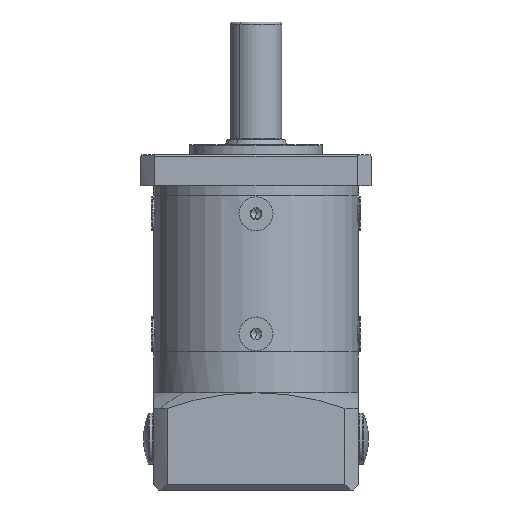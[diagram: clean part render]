
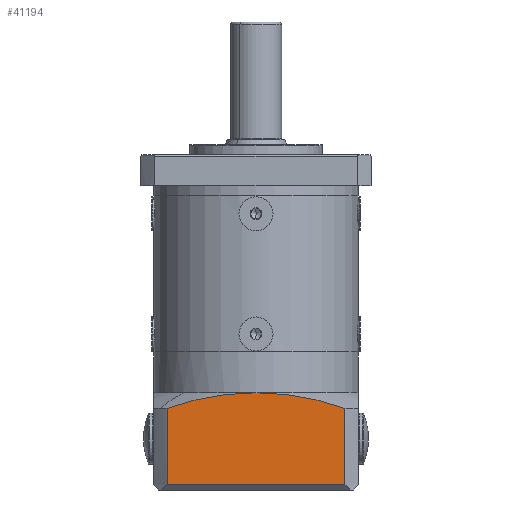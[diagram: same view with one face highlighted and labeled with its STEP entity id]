
A CAD part, front view. The second image highlights one B-rep face of the part: STEP entity #41194.
In plain terms, the highlighted planar face has unit normal (0, -1, 0).
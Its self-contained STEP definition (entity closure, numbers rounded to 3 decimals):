
#452 = CARTESIAN_POINT ( 'NONE',  ( -4.81, -6.138, -51.485 ) ) ;
#1282 = AXIS2_PLACEMENT_3D ( 'NONE', #17273, #35163, #16625 ) ;
#2647 = CARTESIAN_POINT ( 'NONE',  ( 12.575, -6.138, -94.953 ) ) ;
#5045 = DIRECTION ( 'NONE',  ( 0., 0., -1. ) ) ;
#5098 = CARTESIAN_POINT ( 'NONE',  ( 15.19, -6.138, -18.25 ) ) ;
#8926 = VERTEX_POINT ( 'NONE', #43164 ) ;
#9084 = VERTEX_POINT ( 'NONE', #34532 ) ;
#9883 = CIRCLE ( 'NONE', #12175, 51.235 ) ;
#10973 = ORIENTED_EDGE ( 'NONE', *, *, #25828, .T. ) ;
#12175 = AXIS2_PLACEMENT_3D ( 'NONE', #13359, #24597, #28981 ) ;
#13359 = CARTESIAN_POINT ( 'NONE',  ( -4.81, -6.138, -51.485 ) ) ;
#13503 = PLANE ( 'NONE',  #1282 ) ;
#14371 = EDGE_CURVE ( 'NONE', #25537, #15085, #16681, .T. ) ;
#15085 = VERTEX_POINT ( 'NONE', #31609 ) ;
#16105 = CIRCLE ( 'NONE', #42375, 51.235 ) ;
#16313 = DIRECTION ( 'NONE',  ( 1., 0., 0. ) ) ;
#16323 = FACE_OUTER_BOUND ( 'NONE', #36689, .T. ) ;
#16625 = DIRECTION ( 'NONE',  ( 0., 0., -1. ) ) ;
#16681 = LINE ( 'NONE', #43063, #41639 ) ;
#17273 = CARTESIAN_POINT ( 'NONE',  ( 15.19, -6.138, -19.25 ) ) ;
#17802 = LINE ( 'NONE', #2647, #20122 ) ;
#20122 = VECTOR ( 'NONE', #5045, 1000. ) ;
#22403 = EDGE_CURVE ( 'NONE', #31642, #9084, #16105, .T. ) ;
#24597 = DIRECTION ( 'NONE',  ( 0., -1., 0. ) ) ;
#25537 = VERTEX_POINT ( 'NONE', #43302 ) ;
#25828 = EDGE_CURVE ( 'NONE', #25537, #8926, #47347, .T. ) ;
#26298 = DIRECTION ( 'NONE',  ( 0., -1., 0. ) ) ;
#28981 = DIRECTION ( 'NONE',  ( 0., 0., -1. ) ) ;
#29085 = EDGE_CURVE ( 'NONE', #31642, #8926, #17802, .T. ) ;
#29853 = ORIENTED_EDGE ( 'NONE', *, *, #22403, .T. ) ;
#31609 = CARTESIAN_POINT ( 'NONE',  ( -22.195, -6.138, -3.29 ) ) ;
#31642 = VERTEX_POINT ( 'NONE', #47304 ) ;
#33734 = ORIENTED_EDGE ( 'NONE', *, *, #42479, .T. ) ;
#34532 = CARTESIAN_POINT ( 'NONE',  ( -4.81, -6.138, -0.25 ) ) ;
#35163 = DIRECTION ( 'NONE',  ( 0., 1., 0. ) ) ;
#36259 = ORIENTED_EDGE ( 'NONE', *, *, #29085, .F. ) ;
#36288 = ORIENTED_EDGE ( 'NONE', *, *, #14371, .F. ) ;
#36689 = EDGE_LOOP ( 'NONE', ( #36259, #29853, #33734, #36288, #10973 ) ) ;
#41194 = ADVANCED_FACE ( 'NONE', ( #16323 ), #13503, .F. ) ;
#41208 = DIRECTION ( 'NONE',  ( 0., 0., -1. ) ) ;
#41639 = VECTOR ( 'NONE', #42907, 1000. ) ;
#42375 = AXIS2_PLACEMENT_3D ( 'NONE', #452, #26298, #41208 ) ;
#42479 = EDGE_CURVE ( 'NONE', #9084, #15085, #9883, .T. ) ;
#42624 = VECTOR ( 'NONE', #16313, 1000. ) ;
#42907 = DIRECTION ( 'NONE',  ( 0., 0., 1. ) ) ;
#43063 = CARTESIAN_POINT ( 'NONE',  ( -22.195, -6.138, -94.953 ) ) ;
#43164 = CARTESIAN_POINT ( 'NONE',  ( 12.575, -6.138, -18.25 ) ) ;
#43302 = CARTESIAN_POINT ( 'NONE',  ( -22.195, -6.138, -18.25 ) ) ;
#47304 = CARTESIAN_POINT ( 'NONE',  ( 12.575, -6.138, -3.29 ) ) ;
#47347 = LINE ( 'NONE', #5098, #42624 ) ;
